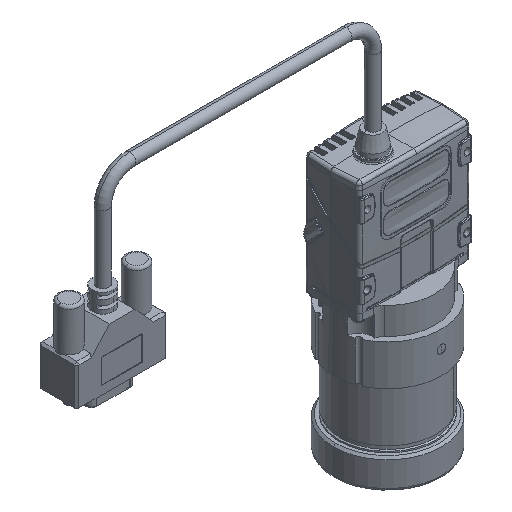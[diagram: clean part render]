
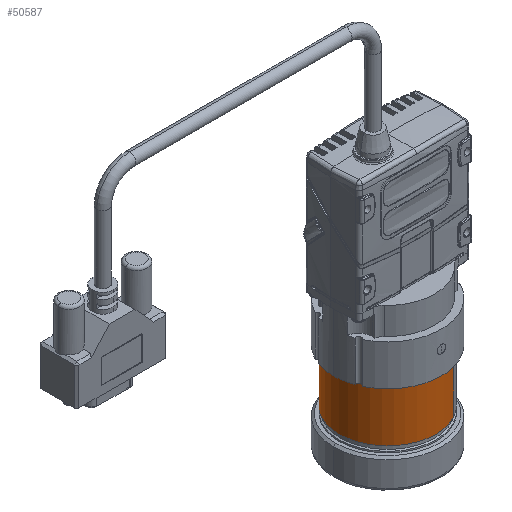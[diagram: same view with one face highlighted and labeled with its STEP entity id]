
A CAD part, isometric view. The second image highlights one B-rep face of the part: STEP entity #50587.
In plain terms, the highlighted cylindrical face has radius 18 mm (diameter 36 mm), a partial arc.
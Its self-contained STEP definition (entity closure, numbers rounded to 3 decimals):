
#1093 = CARTESIAN_POINT ( 'NONE',  ( 9., -15.588, -12.77 ) ) ;
#3214 = AXIS2_PLACEMENT_3D ( 'NONE', #49923, #14317, #55777 ) ;
#4328 = ORIENTED_EDGE ( 'NONE', *, *, #6294, .T. ) ;
#6294 = EDGE_CURVE ( 'NONE', #50298, #36372, #28618, .T. ) ;
#11847 = DIRECTION ( 'NONE',  ( 0., 0., -1. ) ) ;
#11891 = VERTEX_POINT ( 'NONE', #19476 ) ;
#13368 = CIRCLE ( 'NONE', #53946, 18. ) ;
#14317 = DIRECTION ( 'NONE',  ( 0., 0., -1. ) ) ;
#15181 = VECTOR ( 'NONE', #68119, 1000. ) ;
#19476 = CARTESIAN_POINT ( 'NONE',  ( -9., 15.588, -45.484 ) ) ;
#20136 = CARTESIAN_POINT ( 'NONE',  ( 0., 0., -12.77 ) ) ;
#23884 = VERTEX_POINT ( 'NONE', #54137 ) ;
#26674 = CARTESIAN_POINT ( 'NONE',  ( -9., 15.588, -12.77 ) ) ;
#27250 = LINE ( 'NONE', #26674, #15181 ) ;
#28618 = LINE ( 'NONE', #1093, #44420 ) ;
#29860 = ORIENTED_EDGE ( 'NONE', *, *, #59913, .T. ) ;
#29917 = CIRCLE ( 'NONE', #3214, 18. ) ;
#30003 = CARTESIAN_POINT ( 'NONE',  ( 0., 0., -45.484 ) ) ;
#30586 = EDGE_CURVE ( 'NONE', #11891, #50298, #13368, .T. ) ;
#34247 = ORIENTED_EDGE ( 'NONE', *, *, #64852, .T. ) ;
#35981 = DIRECTION ( 'NONE',  ( 0.5, -0.866, 0. ) ) ;
#36372 = VERTEX_POINT ( 'NONE', #56575 ) ;
#40760 = CARTESIAN_POINT ( 'NONE',  ( 9., -15.588, -45.484 ) ) ;
#44420 = VECTOR ( 'NONE', #60446, 1000. ) ;
#45175 = ORIENTED_EDGE ( 'NONE', *, *, #30586, .T. ) ;
#47440 = CARTESIAN_POINT ( 'NONE',  ( 0., 0., -25.3 ) ) ;
#48081 = CARTESIAN_POINT ( 'NONE',  ( -18., 0., -25.3 ) ) ;
#48908 = CIRCLE ( 'NONE', #50732, 18. ) ;
#49645 = FACE_OUTER_BOUND ( 'NONE', #57651, .T. ) ;
#49923 = CARTESIAN_POINT ( 'NONE',  ( 0., 0., -25.3 ) ) ;
#50213 = AXIS2_PLACEMENT_3D ( 'NONE', #20136, #55849, #73492 ) ;
#50298 = VERTEX_POINT ( 'NONE', #40760 ) ;
#50587 = ADVANCED_FACE ( 'NONE', ( #49645 ), #63487, .T. ) ;
#50732 = AXIS2_PLACEMENT_3D ( 'NONE', #47440, #11847, #53292 ) ;
#53292 = DIRECTION ( 'NONE',  ( -1., 0., 0. ) ) ;
#53946 = AXIS2_PLACEMENT_3D ( 'NONE', #30003, #71431, #35981 ) ;
#54137 = CARTESIAN_POINT ( 'NONE',  ( -9., 15.588, -25.3 ) ) ;
#55471 = VERTEX_POINT ( 'NONE', #48081 ) ;
#55777 = DIRECTION ( 'NONE',  ( -1., 0., 0. ) ) ;
#55849 = DIRECTION ( 'NONE',  ( 0., 0., 1. ) ) ;
#56575 = CARTESIAN_POINT ( 'NONE',  ( 9., -15.588, -25.3 ) ) ;
#57651 = EDGE_LOOP ( 'NONE', ( #72047, #45175, #4328, #34247, #29860 ) ) ;
#59913 = EDGE_CURVE ( 'NONE', #55471, #23884, #48908, .T. ) ;
#60446 = DIRECTION ( 'NONE',  ( 0., 0., 1. ) ) ;
#63487 = CYLINDRICAL_SURFACE ( 'NONE', #50213, 18. ) ;
#64852 = EDGE_CURVE ( 'NONE', #36372, #55471, #29917, .T. ) ;
#68119 = DIRECTION ( 'NONE',  ( 0., 0., 1. ) ) ;
#71431 = DIRECTION ( 'NONE',  ( 0., 0., 1. ) ) ;
#72047 = ORIENTED_EDGE ( 'NONE', *, *, #76501, .F. ) ;
#73492 = DIRECTION ( 'NONE',  ( 0.5, -0.866, 0. ) ) ;
#76501 = EDGE_CURVE ( 'NONE', #11891, #23884, #27250, .T. ) ;
